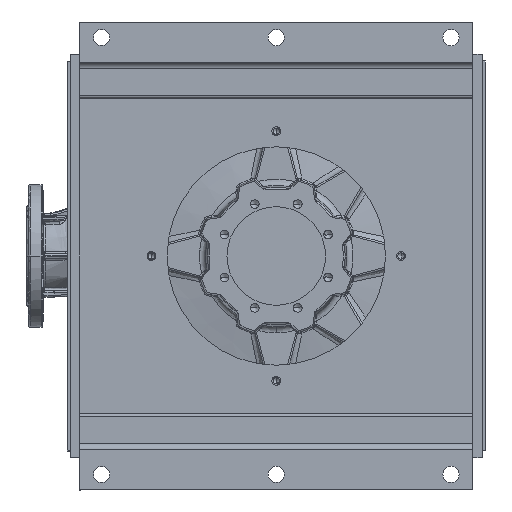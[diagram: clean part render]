
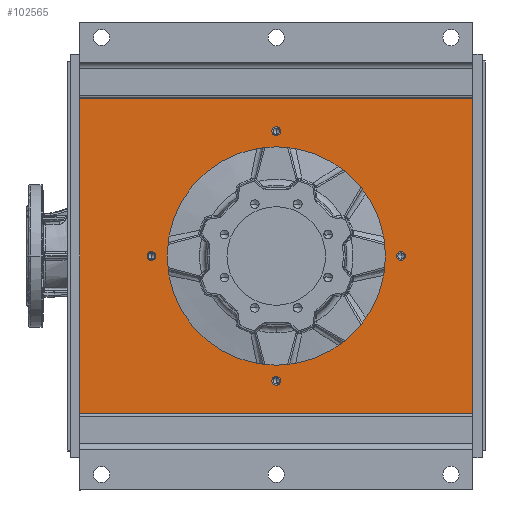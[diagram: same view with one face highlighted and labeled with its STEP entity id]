
A CAD part, front view. The second image highlights one B-rep face of the part: STEP entity #102565.
In plain terms, the highlighted planar face has unit normal (0, -1, 0).
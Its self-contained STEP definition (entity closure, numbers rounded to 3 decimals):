
#751 = AXIS2_PLACEMENT_3D ( 'NONE', #65254, #159486, #78919 ) ;
#5724 = CARTESIAN_POINT ( 'NONE',  ( 0., -430.5, -200. ) ) ;
#5997 = VERTEX_POINT ( 'NONE', #145198 ) ;
#6551 = EDGE_LOOP ( 'NONE', ( #71683, #120907, #63555, #143138 ) ) ;
#7398 = AXIS2_PLACEMENT_3D ( 'NONE', #133462, #52603, #147004 ) ;
#10317 = PLANE ( 'NONE',  #55206 ) ;
#16808 = CARTESIAN_POINT ( 'NONE',  ( 7., -430.5, -200. ) ) ;
#19100 = DIRECTION ( 'NONE',  ( -1., 0., 0. ) ) ;
#19487 = DIRECTION ( 'NONE',  ( -1., 0., 0. ) ) ;
#20644 = CARTESIAN_POINT ( 'NONE',  ( -315., -430.5, -253. ) ) ;
#21862 = CIRCLE ( 'NONE', #94398, 7. ) ;
#23101 = CARTESIAN_POINT ( 'NONE',  ( -207., -430.5, 0. ) ) ;
#25804 = DIRECTION ( 'NONE',  ( 0., 1., 0. ) ) ;
#26175 = CARTESIAN_POINT ( 'NONE',  ( -200., -430.5, 0. ) ) ;
#27039 = EDGE_LOOP ( 'NONE', ( #117747, #35510 ) ) ;
#27410 = AXIS2_PLACEMENT_3D ( 'NONE', #162002, #81491, #175556 ) ;
#27860 = AXIS2_PLACEMENT_3D ( 'NONE', #117316, #36146, #130753 ) ;
#29751 = EDGE_CURVE ( 'NONE', #29965, #5997, #149576, .T. ) ;
#29965 = VERTEX_POINT ( 'NONE', #65387 ) ;
#30346 = VERTEX_POINT ( 'NONE', #63389 ) ;
#30383 = ORIENTED_EDGE ( 'NONE', *, *, #130044, .T. ) ;
#30829 = CARTESIAN_POINT ( 'NONE',  ( 0., -430.5, 200. ) ) ;
#31001 = FACE_BOUND ( 'NONE', #27039, .T. ) ;
#32156 = CARTESIAN_POINT ( 'NONE',  ( -7., -430.5, -200. ) ) ;
#35510 = ORIENTED_EDGE ( 'NONE', *, *, #94296, .T. ) ;
#35540 = VERTEX_POINT ( 'NONE', #146989 ) ;
#36146 = DIRECTION ( 'NONE',  ( 0., 1., 0. ) ) ;
#38335 = EDGE_LOOP ( 'NONE', ( #30383, #78863 ) ) ;
#38742 = ORIENTED_EDGE ( 'NONE', *, *, #84206, .T. ) ;
#39894 = DIRECTION ( 'NONE',  ( -1., 0., 0. ) ) ;
#41067 = ORIENTED_EDGE ( 'NONE', *, *, #105879, .T. ) ;
#44489 = DIRECTION ( 'NONE',  ( -1., 0., 0. ) ) ;
#49365 = CARTESIAN_POINT ( 'NONE',  ( 207., -430.5, 0. ) ) ;
#50192 = DIRECTION ( 'NONE',  ( 0., 0., -1. ) ) ;
#52603 = DIRECTION ( 'NONE',  ( 0., 1., 0. ) ) ;
#53122 = LINE ( 'NONE', #138317, #84988 ) ;
#55206 = AXIS2_PLACEMENT_3D ( 'NONE', #107120, #25804, #120622 ) ;
#55332 = CARTESIAN_POINT ( 'NONE',  ( -315., -430.5, -253. ) ) ;
#56167 = LINE ( 'NONE', #20644, #83831 ) ;
#58274 = EDGE_LOOP ( 'NONE', ( #38742, #137309 ) ) ;
#58375 = CIRCLE ( 'NONE', #751, 175. ) ;
#60730 = CIRCLE ( 'NONE', #27410, 7. ) ;
#61251 = ORIENTED_EDGE ( 'NONE', *, *, #130298, .T. ) ;
#62952 = FACE_OUTER_BOUND ( 'NONE', #6551, .T. ) ;
#63389 = CARTESIAN_POINT ( 'NONE',  ( -7., -430.5, 200. ) ) ;
#63555 = ORIENTED_EDGE ( 'NONE', *, *, #150215, .T. ) ;
#65254 = CARTESIAN_POINT ( 'NONE',  ( 0., -430.5, 0. ) ) ;
#65387 = CARTESIAN_POINT ( 'NONE',  ( -175., -430.5, 0. ) ) ;
#65624 = VERTEX_POINT ( 'NONE', #87061 ) ;
#66973 = AXIS2_PLACEMENT_3D ( 'NONE', #72034, #166170, #85635 ) ;
#67005 = LINE ( 'NONE', #112870, #107153 ) ;
#67245 = FACE_BOUND ( 'NONE', #38335, .T. ) ;
#71683 = ORIENTED_EDGE ( 'NONE', *, *, #158425, .T. ) ;
#72034 = CARTESIAN_POINT ( 'NONE',  ( 0., -430.5, 0. ) ) ;
#72538 = VERTEX_POINT ( 'NONE', #55332 ) ;
#75497 = DIRECTION ( 'NONE',  ( 1., 0., 0. ) ) ;
#78863 = ORIENTED_EDGE ( 'NONE', *, *, #99205, .T. ) ;
#78917 = CARTESIAN_POINT ( 'NONE',  ( 200., -430.5, 0. ) ) ;
#78919 = DIRECTION ( 'NONE',  ( -1., 0., 0. ) ) ;
#79112 = DIRECTION ( 'NONE',  ( 0., 1., 0. ) ) ;
#81491 = DIRECTION ( 'NONE',  ( 0., 1., 0. ) ) ;
#82475 = VERTEX_POINT ( 'NONE', #112282 ) ;
#82520 = CARTESIAN_POINT ( 'NONE',  ( -193., -430.5, 0. ) ) ;
#83500 = CARTESIAN_POINT ( 'NONE',  ( 315., -430.5, 253. ) ) ;
#83831 = VECTOR ( 'NONE', #75497, 1000. ) ;
#84206 = EDGE_CURVE ( 'NONE', #124437, #138305, #165505, .T. ) ;
#84988 = VECTOR ( 'NONE', #165308, 1000. ) ;
#85635 = DIRECTION ( 'NONE',  ( -1., 0., 0. ) ) ;
#87061 = CARTESIAN_POINT ( 'NONE',  ( 193., -430.5, 0. ) ) ;
#92451 = DIRECTION ( 'NONE',  ( -1., 0., 0. ) ) ;
#94296 = EDGE_CURVE ( 'NONE', #150402, #151437, #134981, .T. ) ;
#94398 = AXIS2_PLACEMENT_3D ( 'NONE', #78917, #173034, #92451 ) ;
#95084 = EDGE_LOOP ( 'NONE', ( #61251, #95215 ) ) ;
#95215 = ORIENTED_EDGE ( 'NONE', *, *, #95586, .T. ) ;
#95586 = EDGE_CURVE ( 'NONE', #35540, #30346, #108333, .T. ) ;
#98985 = FACE_BOUND ( 'NONE', #172892, .T. ) ;
#99045 = ORIENTED_EDGE ( 'NONE', *, *, #29751, .T. ) ;
#99205 = EDGE_CURVE ( 'NONE', #152794, #65624, #21862, .T. ) ;
#100901 = DIRECTION ( 'NONE',  ( 0., 1., 0. ) ) ;
#102565 = ADVANCED_FACE ( 'NONE', ( #31001, #138927, #67245, #134696, #98985, #62952 ), #10317, .F. ) ;
#102675 = CIRCLE ( 'NONE', #132271, 7. ) ;
#103052 = CIRCLE ( 'NONE', #136280, 7. ) ;
#103565 = EDGE_CURVE ( 'NONE', #138305, #124437, #102675, .T. ) ;
#105879 = EDGE_CURVE ( 'NONE', #5997, #29965, #58375, .T. ) ;
#107120 = CARTESIAN_POINT ( 'NONE',  ( -335., -430.5, -312.5 ) ) ;
#107153 = VECTOR ( 'NONE', #19100, 1000. ) ;
#107251 = VERTEX_POINT ( 'NONE', #109021 ) ;
#108333 = CIRCLE ( 'NONE', #7398, 7. ) ;
#109021 = CARTESIAN_POINT ( 'NONE',  ( -315., -430.5, 253. ) ) ;
#112282 = CARTESIAN_POINT ( 'NONE',  ( 315., -430.5, -253. ) ) ;
#112870 = CARTESIAN_POINT ( 'NONE',  ( 315., -430.5, 253. ) ) ;
#117246 = EDGE_CURVE ( 'NONE', #107251, #72538, #53122, .T. ) ;
#117316 = CARTESIAN_POINT ( 'NONE',  ( -200., -430.5, 0. ) ) ;
#117747 = ORIENTED_EDGE ( 'NONE', *, *, #132886, .T. ) ;
#120622 = DIRECTION ( 'NONE',  ( -1., 0., 0. ) ) ;
#120907 = ORIENTED_EDGE ( 'NONE', *, *, #117246, .T. ) ;
#120976 = DIRECTION ( 'NONE',  ( 0., 1., 0. ) ) ;
#122720 = AXIS2_PLACEMENT_3D ( 'NONE', #26175, #120976, #39894 ) ;
#123423 = VERTEX_POINT ( 'NONE', #83500 ) ;
#124437 = VERTEX_POINT ( 'NONE', #32156 ) ;
#125471 = DIRECTION ( 'NONE',  ( 0., 1., 0. ) ) ;
#130044 = EDGE_CURVE ( 'NONE', #65624, #152794, #60730, .T. ) ;
#130298 = EDGE_CURVE ( 'NONE', #30346, #35540, #103052, .T. ) ;
#130753 = DIRECTION ( 'NONE',  ( -1., 0., 0. ) ) ;
#132271 = AXIS2_PLACEMENT_3D ( 'NONE', #5724, #100901, #19487 ) ;
#132886 = EDGE_CURVE ( 'NONE', #151437, #150402, #156477, .T. ) ;
#133462 = CARTESIAN_POINT ( 'NONE',  ( 0., -430.5, 200. ) ) ;
#134696 = FACE_BOUND ( 'NONE', #58274, .T. ) ;
#134744 = VECTOR ( 'NONE', #50192, 1000. ) ;
#134981 = CIRCLE ( 'NONE', #27860, 7. ) ;
#136280 = AXIS2_PLACEMENT_3D ( 'NONE', #30829, #125471, #44489 ) ;
#137309 = ORIENTED_EDGE ( 'NONE', *, *, #103565, .T. ) ;
#138305 = VERTEX_POINT ( 'NONE', #16808 ) ;
#138317 = CARTESIAN_POINT ( 'NONE',  ( -315., -430.5, -323. ) ) ;
#138927 = FACE_BOUND ( 'NONE', #95084, .T. ) ;
#143138 = ORIENTED_EDGE ( 'NONE', *, *, #145812, .F. ) ;
#145198 = CARTESIAN_POINT ( 'NONE',  ( 175., -430.5, 0. ) ) ;
#145812 = EDGE_CURVE ( 'NONE', #123423, #82475, #170508, .T. ) ;
#146989 = CARTESIAN_POINT ( 'NONE',  ( 7., -430.5, 200. ) ) ;
#147004 = DIRECTION ( 'NONE',  ( -1., 0., 0. ) ) ;
#149576 = CIRCLE ( 'NONE', #66973, 175. ) ;
#150215 = EDGE_CURVE ( 'NONE', #72538, #82475, #56167, .T. ) ;
#150402 = VERTEX_POINT ( 'NONE', #82520 ) ;
#151437 = VERTEX_POINT ( 'NONE', #23101 ) ;
#152794 = VERTEX_POINT ( 'NONE', #49365 ) ;
#156477 = CIRCLE ( 'NONE', #122720, 7. ) ;
#156991 = CARTESIAN_POINT ( 'NONE',  ( 315., -430.5, -323. ) ) ;
#158425 = EDGE_CURVE ( 'NONE', #123423, #107251, #67005, .T. ) ;
#159486 = DIRECTION ( 'NONE',  ( 0., 1., 0. ) ) ;
#159675 = CARTESIAN_POINT ( 'NONE',  ( 0., -430.5, -200. ) ) ;
#162002 = CARTESIAN_POINT ( 'NONE',  ( 200., -430.5, 0. ) ) ;
#165308 = DIRECTION ( 'NONE',  ( 0., 0., -1. ) ) ;
#165505 = CIRCLE ( 'NONE', #175638, 7. ) ;
#166170 = DIRECTION ( 'NONE',  ( 0., 1., 0. ) ) ;
#170508 = LINE ( 'NONE', #156991, #134744 ) ;
#172892 = EDGE_LOOP ( 'NONE', ( #99045, #41067 ) ) ;
#173034 = DIRECTION ( 'NONE',  ( 0., 1., 0. ) ) ;
#173232 = DIRECTION ( 'NONE',  ( -1., 0., 0. ) ) ;
#175556 = DIRECTION ( 'NONE',  ( -1., 0., 0. ) ) ;
#175638 = AXIS2_PLACEMENT_3D ( 'NONE', #159675, #79112, #173232 ) ;
